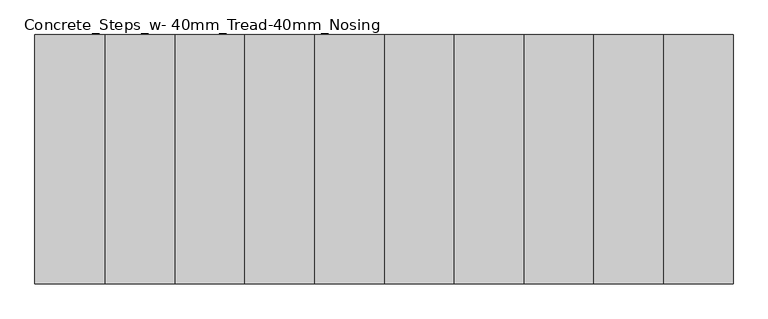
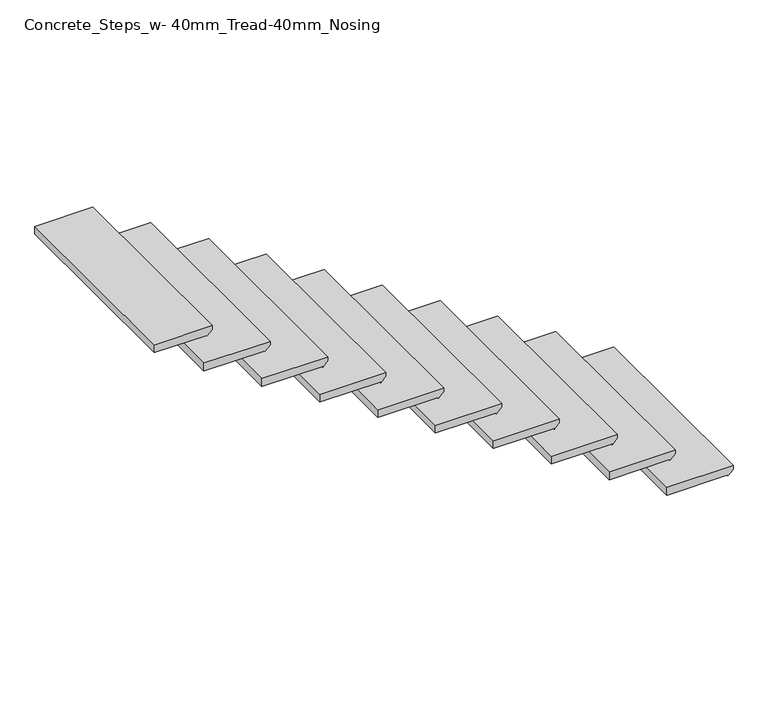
"""IFC4 building model written with IfcOpenShell, lengths in millimetres: stair flight geometry, Concrete_Steps_w- 40mm_Tread-40mm_Nosing."""

import ifcopenshell
import ifcopenshell.guid

model = None  # the IFC model being written
_history = None  # IfcOwnerHistory: only IFC2X3 demands one
_inside = {}  # id of a spatial element -> (the spatial element, [elements in it])
_under = {}  # id of a project, library or spatial element -> (it, [spatial elements below it])
_declared = {}  # id of a project -> (the project, [libraries it declares])
_typed = {}  # id of a type object -> (the type object, [elements of that type])
_made_of = {}  # id of a material, layer set ... -> (it, [elements and type objects made of it])


def new_model(schema):
    """Start an empty IFC model of exactly this schema.

    Asked for "IFC4X3", IfcOpenShell would pick the latest addendum, in which some entities
    have other attributes; the version numbers below select the first issue.
    IFC2X3 requires an IfcOwnerHistory on every rooted entity: one is made here for all.
    """
    global model, _history
    if schema == "IFC4X3":
        model = ifcopenshell.file(schema_version=(4, 3, 0, 0))
    else:
        model = ifcopenshell.file(schema=schema)
    _inside.clear()
    _under.clear()
    _declared.clear()
    _typed.clear()
    _made_of.clear()
    _history = None
    if model.schema == "IFC2X3":
        org = make("IfcOrganization", Name="unknown")
        user = make(
            "IfcPersonAndOrganization",
            ThePerson=make("IfcPerson", FamilyName="unknown"),
            TheOrganization=org,
        )
        app = make(
            "IfcApplication",
            ApplicationDeveloper=org,
            Version="unknown",
            ApplicationFullName="unknown",
            ApplicationIdentifier="unknown",
        )
        _history = make(
            "IfcOwnerHistory",
            OwningUser=user,
            OwningApplication=app,
            ChangeAction="ADDED",
            CreationDate=0,
        )
    return model


def make(cls, **values):
    """One entity of the class cls with the attributes given. An attribute that is None is left unset."""
    return model.create_entity(
        cls, **{name: value for name, value in values.items() if value is not None}
    )


def rooted(cls, **values):
    """An entity with a GlobalId (a new one), such as an element, a storey or a relation."""
    return make(cls, GlobalId=ifcopenshell.guid.new(), OwnerHistory=_history, **values)


def si_unit(unit_type, name, prefix=None):
    """IfcSIUnit, for example si_unit("LENGTHUNIT", "METRE", prefix="MILLI")."""
    return make("IfcSIUnit", UnitType=unit_type, Prefix=prefix, Name=name)


def assignment(units):
    """IfcUnitAssignment: the units of a project."""
    return None if units is None else make("IfcUnitAssignment", Units=units)


def point(xyz):
    """IfcCartesianPoint."""
    return None if xyz is None else make("IfcCartesianPoint", Coordinates=xyz)


def direction(xyz):
    """IfcDirection."""
    return None if xyz is None else make("IfcDirection", DirectionRatios=xyz)


def frame(location, z_axis=None, x_axis=None):
    """IfcAxis2Placement3D, a coordinate frame: its origin and axes. An axis left out is left unset."""
    return make(
        "IfcAxis2Placement3D",
        Location=point(location),
        Axis=direction(z_axis),
        RefDirection=direction(x_axis),
    )


def origin():
    """The frame at (0, 0, 0) with its axes left unset."""
    return frame((0.0, 0.0, 0.0))


def place(relative_to, where):
    """IfcLocalPlacement: puts the frame where relative to a parent placement (None: the world)."""
    return make(
        "IfcLocalPlacement", PlacementRelTo=relative_to, RelativePlacement=where
    )


def context(
    kind, dimensions, precision=None, world=None, true_north=None, identifier=None
):
    """IfcGeometricRepresentationContext, for example the 3D "Model" context."""
    return make(
        "IfcGeometricRepresentationContext",
        ContextIdentifier=identifier,
        ContextType=kind,
        CoordinateSpaceDimension=dimensions,
        Precision=precision,
        WorldCoordinateSystem=world,
        TrueNorth=true_north,
    )


def project(units=None, contexts=None):
    """IfcProject with its units and contexts."""
    return rooted(
        "IfcProject",
        Name="project",
        RepresentationContexts=contexts,
        UnitsInContext=assignment(units),
    )


def spatial(cls, under=None, at=None, **own):
    """A site, building, storey or space (cls), placed at a placement, below another one or the project."""
    s = rooted(cls, ObjectPlacement=at, **own)
    if under is not None:
        _under.setdefault(under.id(), (under, []))[1].append(s)
    return s


def polyline(points):
    """IfcPolyline through the points."""
    return make("IfcPolyline", Points=[point(p) for p in points])


def outline(outer, holes=None, kind="AREA"):
    """IfcArbitraryClosedProfileDef: a profile drawn as a closed curve; with holes, ...WithVoids."""
    if holes is None:
        return make("IfcArbitraryClosedProfileDef", ProfileType=kind, OuterCurve=outer)
    return make(
        "IfcArbitraryProfileDefWithVoids",
        ProfileType=kind,
        OuterCurve=outer,
        InnerCurves=holes,
    )


def extrude(swept, where, along, depth):
    """IfcExtrudedAreaSolid: the profile swept, set in the frame where, extruded along a direction by depth."""
    return make(
        "IfcExtrudedAreaSolid",
        SweptArea=swept,
        Position=where,
        ExtrudedDirection=direction(along),
        Depth=depth,
    )


def shape(context_of_items, identifier, shape_type, items):
    """IfcShapeRepresentation: the items that make up one representation, for example the "Body"."""
    return make(
        "IfcShapeRepresentation",
        ContextOfItems=context_of_items,
        RepresentationIdentifier=identifier,
        RepresentationType=shape_type,
        Items=items,
    )


def source(mapping_origin, context_of_items, identifier, shape_type, items):
    """IfcRepresentationMap: a shape defined once, which mapped items show again and again."""
    return make(
        "IfcRepresentationMap",
        MappingOrigin=mapping_origin,
        MappedRepresentation=shape(context_of_items, identifier, shape_type, items),
    )


def transform(
    local_origin,
    x_axis=None,
    y_axis=None,
    z_axis=None,
    scale=None,
    scale2=None,
    scale3=None,
    uniform=True,
):
    """IfcCartesianTransformationOperator3D, or its non-uniform kind. x_axis, y_axis, z_axis: its Axis1, 2, 3."""
    if uniform:
        return make(
            "IfcCartesianTransformationOperator3D",
            Axis1=direction(x_axis),
            Axis2=direction(y_axis),
            LocalOrigin=point(local_origin),
            Scale=scale,
            Axis3=direction(z_axis),
        )
    return make(
        "IfcCartesianTransformationOperator3DnonUniform",
        Axis1=direction(x_axis),
        Axis2=direction(y_axis),
        LocalOrigin=point(local_origin),
        Scale=scale,
        Axis3=direction(z_axis),
        Scale2=scale2,
        Scale3=scale3,
    )


def mapped(mapping_source, mapping_target):
    """IfcMappedItem: shows the shape of a source again, moved by a transform."""
    return make(
        "IfcMappedItem", MappingSource=mapping_source, MappingTarget=mapping_target
    )


def made_of(thing, what):
    """Note that an element or type object is made of a material, layer set ...; save() writes the relation."""
    if what is not None:
        _made_of.setdefault(what.id(), (what, []))[1].append(thing)
    return thing


def element(
    cls,
    number,
    at=None,
    inside=None,
    cuts=None,
    type_object=None,
    material=None,
    context=None,
    identifier="Body",
    shape_type=None,
    held_by="IfcProductDefinitionShape",
    body=None,
    shapes=None,
    **own,
):
    """One element of the class cls, such as IfcWall. Its Tag is "e" and its number.

    at: its placement. inside: the storey or other place that contains it. cuts: it is an
    opening in that element (IfcRelVoidsElement). A single representation is given by context,
    identifier, shape_type and body (its items); several are given by shapes. held_by: the class
    of the entity that holds the representations. save() writes the other relations.
    """
    e = rooted(cls, Tag="e%d" % number, ObjectPlacement=at, **own)
    if body is not None:
        shapes = [shape(context, identifier, shape_type, body)]
    if shapes is not None:
        e.Representation = make(held_by, Representations=shapes)
    if inside is not None:
        _inside.setdefault(inside.id(), (inside, []))[1].append(e)
    if cuts is not None:
        rooted(
            "IfcRelVoidsElement", RelatingBuildingElement=cuts, RelatedOpeningElement=e
        )
    if type_object is not None:
        _typed.setdefault(type_object.id(), (type_object, []))[1].append(e)
    return made_of(e, material)


def aggregate(whole, parts):
    """IfcRelAggregates: a whole, such as a stair, and the parts it consists of."""
    return rooted("IfcRelAggregates", RelatingObject=whole, RelatedObjects=parts)


def save(model, path):
    """Write the relations noted so far, then the file.

    IfcRelAggregates (storeys below a building ...), IfcRelContainedInSpatialStructure (elements
    in a storey), IfcRelDefinesByType, IfcRelAssociatesMaterial and IfcRelDeclares: one each for
    every whole, place, type object, material and project.
    """
    for whole, parts in _under.values():
        aggregate(whole, parts)
    for where, things in _inside.values():
        rooted(
            "IfcRelContainedInSpatialStructure",
            RelatedElements=things,
            RelatingStructure=where,
        )
    for kind, things in _typed.values():
        rooted("IfcRelDefinesByType", RelatedObjects=things, RelatingType=kind)
    for what, things in _made_of.values():
        rooted("IfcRelAssociatesMaterial", RelatedObjects=things, RelatingMaterial=what)
    for by, libraries in _declared.values():
        rooted("IfcRelDeclares", RelatingContext=by, RelatedDefinitions=libraries)
    model.write(path)


def concrete_steps_w_40mm_tread_40mm_nosing_be41ec30(model_context):
    return source(origin(), model_context, "Body", "SweptSolid", [
        extrude(outline(polyline([(9402.5, 38092.2647128), (9402.5, 37772.2647128), (9362.5, 37772.2647128), (9362.5, 38066.8647128), (9358.05, 38066.8647128), (9383.45, 38092.2647128), (9402.5, 38092.2647128)])), frame((0.0, -3220.8571952, 0.0), z_axis=(0.0, 1.0, 0.0), x_axis=(0.0, 0.0, 1.0)), (0.0, 0.0, 1.0), 1000.0),
        extrude(outline(polyline([(9580.0, 37812.2647128), (9580.0, 37492.2647128), (9540.0, 37492.2647128), (9540.0, 37786.8647128), (9535.55, 37786.8647128), (9560.95, 37812.2647128), (9580.0, 37812.2647128)])), frame((0.0, -3220.8571952, 0.0), z_axis=(0.0, 1.0, 0.0), x_axis=(0.0, 0.0, 1.0)), (0.0, 0.0, 1.0), 1000.0),
        extrude(outline(polyline([(9757.5, 37532.2647128), (9757.5, 37212.2647128), (9717.5, 37212.2647128), (9717.5, 37506.8647128), (9713.05, 37506.8647128), (9738.45, 37532.2647128), (9757.5, 37532.2647128)])), frame((0.0, -3220.8571952, 0.0), z_axis=(0.0, 1.0, 0.0), x_axis=(0.0, 0.0, 1.0)), (0.0, 0.0, 1.0), 1000.0),
        extrude(outline(polyline([(9935.0, 37252.2647128), (9935.0, 36932.2647128), (9895.0, 36932.2647128), (9895.0, 37226.8647128), (9890.55, 37226.8647128), (9915.95, 37252.2647128), (9935.0, 37252.2647128)])), frame((0.0, -3220.8571952, 0.0), z_axis=(0.0, 1.0, 0.0), x_axis=(0.0, 0.0, 1.0)), (0.0, 0.0, 1.0), 1000.0),
        extrude(outline(polyline([(10112.5, 36972.2647128), (10112.5, 36652.2647128), (10072.5, 36652.2647128), (10072.5, 36946.8647128), (10068.05, 36946.8647128), (10093.45, 36972.2647128), (10112.5, 36972.2647128)])), frame((0.0, -3220.8571952, 0.0), z_axis=(0.0, 1.0, 0.0), x_axis=(0.0, 0.0, 1.0)), (0.0, 0.0, 1.0), 1000.0),
        extrude(outline(polyline([(10290.0, 36692.2647128), (10290.0, 36372.2647128), (10250.0, 36372.2647128), (10250.0, 36666.8647128), (10245.55, 36666.8647128), (10270.95, 36692.2647128), (10290.0, 36692.2647128)])), frame((0.0, -3220.8571952, 0.0), z_axis=(0.0, 1.0, 0.0), x_axis=(0.0, 0.0, 1.0)), (0.0, 0.0, 1.0), 1000.0),
        extrude(outline(polyline([(10467.5, 36412.2647128), (10467.5, 36092.2647128), (10427.5, 36092.2647128), (10427.5, 36386.8647128), (10423.05, 36386.8647128), (10448.45, 36412.2647128), (10467.5, 36412.2647128)])), frame((0.0, -3220.8571952, 0.0), z_axis=(0.0, 1.0, 0.0), x_axis=(0.0, 0.0, 1.0)), (0.0, 0.0, 1.0), 1000.0),
        extrude(outline(polyline([(10645.0, 36132.2647128), (10645.0, 35812.2647128), (10605.0, 35812.2647128), (10605.0, 36106.8647128), (10600.55, 36106.8647128), (10625.95, 36132.2647128), (10645.0, 36132.2647128)])), frame((0.0, -3220.8571952, 0.0), z_axis=(0.0, 1.0, 0.0), x_axis=(0.0, 0.0, 1.0)), (0.0, 0.0, 1.0), 1000.0),
        extrude(outline(polyline([(10822.5, 35852.2647128), (10822.5, 35532.2647128), (10782.5, 35532.2647128), (10782.5, 35826.8647128), (10778.05, 35826.8647128), (10803.45, 35852.2647128), (10822.5, 35852.2647128)])), frame((0.0, -3220.8571952, 0.0), z_axis=(0.0, 1.0, 0.0), x_axis=(0.0, 0.0, 1.0)), (0.0, 0.0, 1.0), 1000.0),
        extrude(outline(polyline([(11000.0, 35572.2647128), (11000.0, 35292.2647128), (10960.0, 35292.2647128), (10960.0, 35546.8647128), (10955.55, 35546.8647128), (10980.95, 35572.2647128), (11000.0, 35572.2647128)])), frame((0.0, -3220.8571952, 0.0), z_axis=(0.0, 1.0, 0.0), x_axis=(0.0, 0.0, 1.0)), (0.0, 0.0, 1.0), 1000.0),
    ])


if __name__ == "__main__":
    model = new_model("IFC4")
    model_context = context("Model", 3, world=origin())
    ifc_project = project(units=[si_unit("LENGTHUNIT", "METRE", prefix="MILLI")], contexts=[model_context])
    site = spatial("IfcSite", under=ifc_project)
    building = spatial("IfcBuilding", under=site)
    placement = place(None, origin())
    concrete_steps_w_40mm_tread_40mm_nosing_shape = concrete_steps_w_40mm_tread_40mm_nosing_be41ec30(model_context)
    element("IfcStairFlight", 1, ObjectType="Concrete_Steps_w- 40mm_Tread-40mm_Nosing", at=placement, inside=building, context=model_context, shape_type="MappedRepresentation", body=[
        mapped(concrete_steps_w_40mm_tread_40mm_nosing_shape, transform((0.0, 0.0, 0.0), x_axis=(1.0, 0.0, 0.0), y_axis=(0.0, 1.0, 0.0), z_axis=(0.0, 0.0, 1.0))),
    ])
    save(model, "model.ifc")
